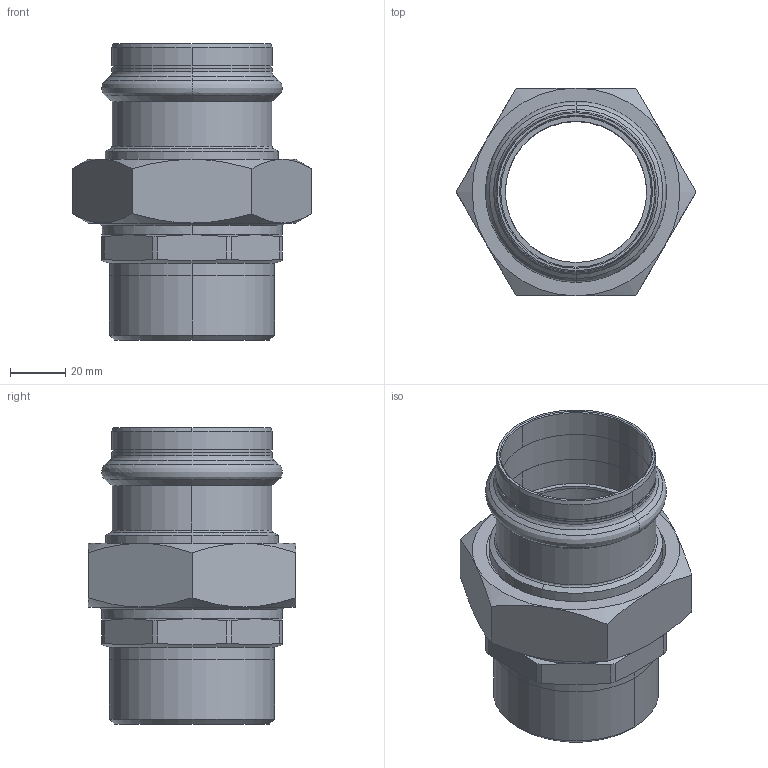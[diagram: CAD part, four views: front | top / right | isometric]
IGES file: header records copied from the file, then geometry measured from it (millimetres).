
Start section: Elysium IGES Interface
Global section: file name: C:\3d modellen sudo\C-Pr VP\SP8331GV\8331GVW542.igs; native system: CoCreate Modeling 17.00A  17-Jun-2010; preprocessor: CoCreate IGES_3D V2.2; author: Unknown; organization: Unknown; date: 20130305.125750; units: millimetre
Bounding box: 86.6 x 75 x 107 mm (x, y, z)
Volume: 116608.2 mm3; surface area: 56605.5 mm2
Topology: 3 solids, 3 shells, 142 faces, 334 edges, 202 vertices
Faces by surface type: bspline 142
